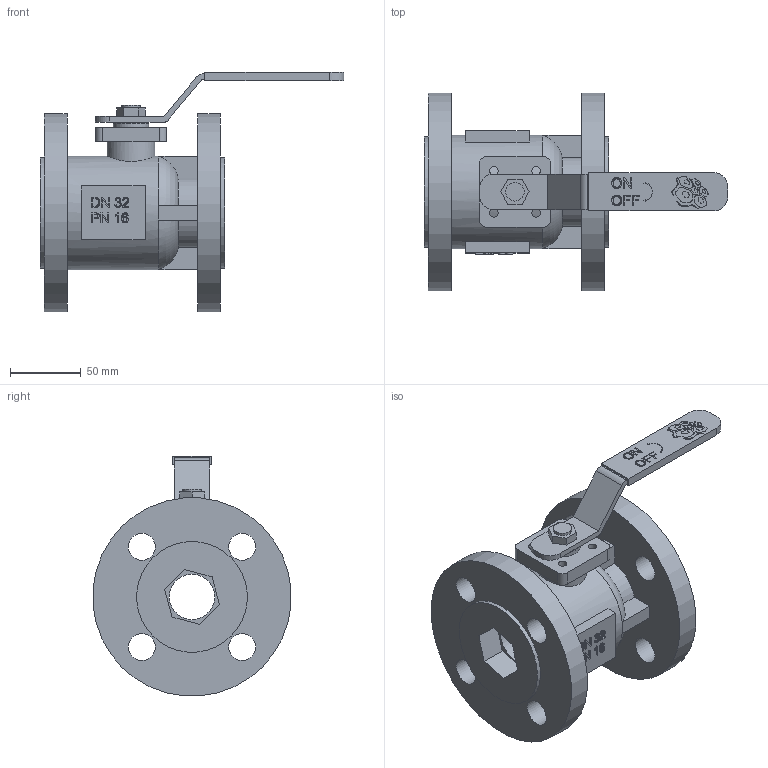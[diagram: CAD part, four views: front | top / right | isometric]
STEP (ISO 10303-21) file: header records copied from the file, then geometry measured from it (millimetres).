
FILE_DESCRIPTION(('STEP AP203'), '1');
FILE_NAME('3D_707-032-16', '', ('UNSPECIFIED'), ('UNSPECIFIED'), 'C3D Converter', 'C3D Toolkit', '');
FILE_SCHEMA(('CONFIG_CONTROL_DESIGN'));
Length unit declared in the file: millimetre
Bounding box: 214 x 139.47 x 168.93 mm (x, y, z)
Volume: 872421.4 mm3; surface area: 134086 mm2
Topology: 19 solids, 19 shells, 2481 faces, 7251 edges, 4830 vertices
Faces by surface type: plane 2438, cylinder 39, torus 4
Full cylindrical faces by diameter (mm): 6 x4, 13 x1, 19 x8, 25 x2, 32 x1, 34 x1, 78 x2, 80 x1, 140 x2
Entity records: 101047 total; most frequent: CARTESIAN_POINT 15159, ORIENTED_EDGE 14458, DIRECTION 12277, EDGE_CURVE 7229, LINE 7127, VECTOR 7127, VERTEX_POINT 4830, AXIS2_PLACEMENT_3D 2575
